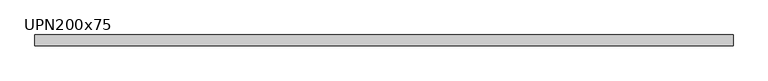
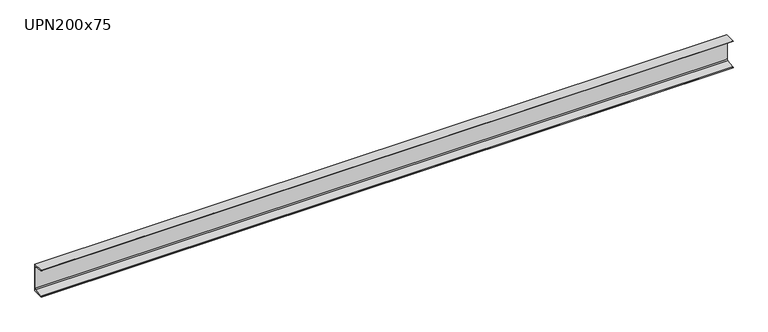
"""IFC4 building model written with IfcOpenShell, lengths in millimetres: beam geometry, M_MC Shapes : UPN200x75."""

import ifcopenshell
import ifcopenshell.guid

model = None  # the IFC model being written
_history = None  # IfcOwnerHistory: only IFC2X3 demands one
_inside = {}  # id of a spatial element -> (the spatial element, [elements in it])
_under = {}  # id of a project, library or spatial element -> (it, [spatial elements below it])
_declared = {}  # id of a project -> (the project, [libraries it declares])
_typed = {}  # id of a type object -> (the type object, [elements of that type])
_made_of = {}  # id of a material, layer set ... -> (it, [elements and type objects made of it])


def new_model(schema):
    """Start an empty IFC model of exactly this schema.

    Asked for "IFC4X3", IfcOpenShell would pick the latest addendum, in which some entities
    have other attributes; the version numbers below select the first issue.
    IFC2X3 requires an IfcOwnerHistory on every rooted entity: one is made here for all.
    """
    global model, _history
    if schema == "IFC4X3":
        model = ifcopenshell.file(schema_version=(4, 3, 0, 0))
    else:
        model = ifcopenshell.file(schema=schema)
    _inside.clear()
    _under.clear()
    _declared.clear()
    _typed.clear()
    _made_of.clear()
    _history = None
    if model.schema == "IFC2X3":
        org = make("IfcOrganization", Name="unknown")
        user = make(
            "IfcPersonAndOrganization",
            ThePerson=make("IfcPerson", FamilyName="unknown"),
            TheOrganization=org,
        )
        app = make(
            "IfcApplication",
            ApplicationDeveloper=org,
            Version="unknown",
            ApplicationFullName="unknown",
            ApplicationIdentifier="unknown",
        )
        _history = make(
            "IfcOwnerHistory",
            OwningUser=user,
            OwningApplication=app,
            ChangeAction="ADDED",
            CreationDate=0,
        )
    return model


def make(cls, **values):
    """One entity of the class cls with the attributes given. An attribute that is None is left unset."""
    return model.create_entity(
        cls, **{name: value for name, value in values.items() if value is not None}
    )


def rooted(cls, **values):
    """An entity with a GlobalId (a new one), such as an element, a storey or a relation."""
    return make(cls, GlobalId=ifcopenshell.guid.new(), OwnerHistory=_history, **values)


def si_unit(unit_type, name, prefix=None):
    """IfcSIUnit, for example si_unit("LENGTHUNIT", "METRE", prefix="MILLI")."""
    return make("IfcSIUnit", UnitType=unit_type, Prefix=prefix, Name=name)


def assignment(units):
    """IfcUnitAssignment: the units of a project."""
    return None if units is None else make("IfcUnitAssignment", Units=units)


def point(xyz):
    """IfcCartesianPoint."""
    return None if xyz is None else make("IfcCartesianPoint", Coordinates=xyz)


def direction(xyz):
    """IfcDirection."""
    return None if xyz is None else make("IfcDirection", DirectionRatios=xyz)


def frame(location, z_axis=None, x_axis=None):
    """IfcAxis2Placement3D, a coordinate frame: its origin and axes. An axis left out is left unset."""
    return make(
        "IfcAxis2Placement3D",
        Location=point(location),
        Axis=direction(z_axis),
        RefDirection=direction(x_axis),
    )


def frame_2d(location, x_axis=None):
    """IfcAxis2Placement2D, a coordinate frame in the plane: its origin and x axis."""
    return make(
        "IfcAxis2Placement2D", Location=point(location), RefDirection=direction(x_axis)
    )


def origin():
    """The frame at (0, 0, 0) with its axes left unset."""
    return frame((0.0, 0.0, 0.0))


def place(relative_to, where):
    """IfcLocalPlacement: puts the frame where relative to a parent placement (None: the world)."""
    return make(
        "IfcLocalPlacement", PlacementRelTo=relative_to, RelativePlacement=where
    )


def context(
    kind, dimensions, precision=None, world=None, true_north=None, identifier=None
):
    """IfcGeometricRepresentationContext, for example the 3D "Model" context."""
    return make(
        "IfcGeometricRepresentationContext",
        ContextIdentifier=identifier,
        ContextType=kind,
        CoordinateSpaceDimension=dimensions,
        Precision=precision,
        WorldCoordinateSystem=world,
        TrueNorth=true_north,
    )


def project(units=None, contexts=None):
    """IfcProject with its units and contexts."""
    return rooted(
        "IfcProject",
        Name="project",
        RepresentationContexts=contexts,
        UnitsInContext=assignment(units),
    )


def spatial(cls, under=None, at=None, **own):
    """A site, building, storey or space (cls), placed at a placement, below another one or the project."""
    s = rooted(cls, ObjectPlacement=at, **own)
    if under is not None:
        _under.setdefault(under.id(), (under, []))[1].append(s)
    return s


def polyline(points):
    """IfcPolyline through the points."""
    return make("IfcPolyline", Points=[point(p) for p in points])


def circle_curve(where, radius):
    """IfcCircle in the frame where."""
    return make("IfcCircle", Position=where, Radius=radius)


def trimmed(basis, trim1, trim2, sense, master):
    """IfcTrimmedCurve: the piece of a basis curve between two trims."""
    return make(
        "IfcTrimmedCurve",
        BasisCurve=basis,
        Trim1=trim1,
        Trim2=trim2,
        SenseAgreement=sense,
        MasterRepresentation=master,
    )


def segment(curve, same_sense, transition):
    """IfcCompositeCurveSegment."""
    return make(
        "IfcCompositeCurveSegment",
        Transition=transition,
        SameSense=same_sense,
        ParentCurve=curve,
    )


def composite_curve(segments, self_intersect=None):
    """IfcCompositeCurve: segments joined end to end."""
    return make("IfcCompositeCurve", Segments=segments, SelfIntersect=self_intersect)


def outline(outer, holes=None, kind="AREA"):
    """IfcArbitraryClosedProfileDef: a profile drawn as a closed curve; with holes, ...WithVoids."""
    if holes is None:
        return make("IfcArbitraryClosedProfileDef", ProfileType=kind, OuterCurve=outer)
    return make(
        "IfcArbitraryProfileDefWithVoids",
        ProfileType=kind,
        OuterCurve=outer,
        InnerCurves=holes,
    )


def extrude(swept, where, along, depth):
    """IfcExtrudedAreaSolid: the profile swept, set in the frame where, extruded along a direction by depth."""
    return make(
        "IfcExtrudedAreaSolid",
        SweptArea=swept,
        Position=where,
        ExtrudedDirection=direction(along),
        Depth=depth,
    )


def shape(context_of_items, identifier, shape_type, items):
    """IfcShapeRepresentation: the items that make up one representation, for example the "Body"."""
    return make(
        "IfcShapeRepresentation",
        ContextOfItems=context_of_items,
        RepresentationIdentifier=identifier,
        RepresentationType=shape_type,
        Items=items,
    )


def source(mapping_origin, context_of_items, identifier, shape_type, items):
    """IfcRepresentationMap: a shape defined once, which mapped items show again and again."""
    return make(
        "IfcRepresentationMap",
        MappingOrigin=mapping_origin,
        MappedRepresentation=shape(context_of_items, identifier, shape_type, items),
    )


def transform(
    local_origin,
    x_axis=None,
    y_axis=None,
    z_axis=None,
    scale=None,
    scale2=None,
    scale3=None,
    uniform=True,
):
    """IfcCartesianTransformationOperator3D, or its non-uniform kind. x_axis, y_axis, z_axis: its Axis1, 2, 3."""
    if uniform:
        return make(
            "IfcCartesianTransformationOperator3D",
            Axis1=direction(x_axis),
            Axis2=direction(y_axis),
            LocalOrigin=point(local_origin),
            Scale=scale,
            Axis3=direction(z_axis),
        )
    return make(
        "IfcCartesianTransformationOperator3DnonUniform",
        Axis1=direction(x_axis),
        Axis2=direction(y_axis),
        LocalOrigin=point(local_origin),
        Scale=scale,
        Axis3=direction(z_axis),
        Scale2=scale2,
        Scale3=scale3,
    )


def mapped(mapping_source, mapping_target):
    """IfcMappedItem: shows the shape of a source again, moved by a transform."""
    return make(
        "IfcMappedItem", MappingSource=mapping_source, MappingTarget=mapping_target
    )


def made_of(thing, what):
    """Note that an element or type object is made of a material, layer set ...; save() writes the relation."""
    if what is not None:
        _made_of.setdefault(what.id(), (what, []))[1].append(thing)
    return thing


def element(
    cls,
    number,
    at=None,
    inside=None,
    cuts=None,
    type_object=None,
    material=None,
    context=None,
    identifier="Body",
    shape_type=None,
    held_by="IfcProductDefinitionShape",
    body=None,
    shapes=None,
    **own,
):
    """One element of the class cls, such as IfcWall. Its Tag is "e" and its number.

    at: its placement. inside: the storey or other place that contains it. cuts: it is an
    opening in that element (IfcRelVoidsElement). A single representation is given by context,
    identifier, shape_type and body (its items); several are given by shapes. held_by: the class
    of the entity that holds the representations. save() writes the other relations.
    """
    e = rooted(cls, Tag="e%d" % number, ObjectPlacement=at, **own)
    if body is not None:
        shapes = [shape(context, identifier, shape_type, body)]
    if shapes is not None:
        e.Representation = make(held_by, Representations=shapes)
    if inside is not None:
        _inside.setdefault(inside.id(), (inside, []))[1].append(e)
    if cuts is not None:
        rooted(
            "IfcRelVoidsElement", RelatingBuildingElement=cuts, RelatedOpeningElement=e
        )
    if type_object is not None:
        _typed.setdefault(type_object.id(), (type_object, []))[1].append(e)
    return made_of(e, material)


def aggregate(whole, parts):
    """IfcRelAggregates: a whole, such as a stair, and the parts it consists of."""
    return rooted("IfcRelAggregates", RelatingObject=whole, RelatedObjects=parts)


def save(model, path):
    """Write the relations noted so far, then the file.

    IfcRelAggregates (storeys below a building ...), IfcRelContainedInSpatialStructure (elements
    in a storey), IfcRelDefinesByType, IfcRelAssociatesMaterial and IfcRelDeclares: one each for
    every whole, place, type object, material and project.
    """
    for whole, parts in _under.values():
        aggregate(whole, parts)
    for where, things in _inside.values():
        rooted(
            "IfcRelContainedInSpatialStructure",
            RelatedElements=things,
            RelatingStructure=where,
        )
    for kind, things in _typed.values():
        rooted("IfcRelDefinesByType", RelatedObjects=things, RelatingType=kind)
    for what, things in _made_of.values():
        rooted("IfcRelAssociatesMaterial", RelatedObjects=things, RelatingMaterial=what)
    for by, libraries in _declared.values():
        rooted("IfcRelDeclares", RelatingContext=by, RelatedDefinitions=libraries)
    model.write(path)


def upn200x75_6b2373fe(model_context):
    return source(origin(), model_context, "Body", "SweptSolid", [
        extrude(outline(composite_curve([segment(polyline([(10.9, 100.0), (10.9, -100.0), (-64.1, -100.0), (-64.1, -99.0253247)]), True, "CONTINUOUS"), segment(trimmed(circle_curve(frame_2d((-60.15, -99.0253247)), 3.95), [point((-64.1, -99.0253247))], [point((-60.7993773, -95.1290689))], False, "CARTESIAN"), True, "CONTINUOUS"), segment(polyline([(-60.7993773, -95.1290689), (-0.2512455, -85.0376935)]), True, "CONTINUOUS"), segment(trimmed(circle_curve(frame_2d((-1.55, -77.2451819)), 7.9), [point((-0.2512455, -85.0376935))], [point((6.35, -77.2451819))], True, "CARTESIAN"), True, "CONTINUOUS"), segment(polyline([(6.35, -77.2451819), (6.35, 77.2451819)]), True, "CONTINUOUS"), segment(trimmed(circle_curve(frame_2d((-1.55, 77.2451819)), 7.9), [point((6.35, 77.2451819))], [point((-0.2512455, 85.0376935))], True, "CARTESIAN"), True, "CONTINUOUS"), segment(polyline([(-0.2512455, 85.0376935), (-60.7993773, 95.1290689)]), True, "CONTINUOUS"), segment(trimmed(circle_curve(frame_2d((-60.15, 99.0253247)), 3.95), [point((-60.7993773, 95.1290689))], [point((-64.1, 99.0253247))], False, "CARTESIAN"), True, "CONTINUOUS"), segment(polyline([(-64.1, 99.0253247), (-64.1, 100.0), (10.9, 100.0)]), True, "CONTINUOUS")], self_intersect=False)), frame((-2433.65, 0.0, 0.0), z_axis=(1.0, 0.0, 0.0), x_axis=(0.0, 1.0, 0.0)), (0.0, 0.0, 1.0), 4867.3),
    ])


if __name__ == "__main__":
    model = new_model("IFC4")
    model_context = context("Model", 3, world=origin())
    ifc_project = project(units=[si_unit("LENGTHUNIT", "METRE", prefix="MILLI")], contexts=[model_context])
    site = spatial("IfcSite", under=ifc_project)
    building = spatial("IfcBuilding", under=site)
    placement = place(None, origin())
    upn200x75_shape = upn200x75_6b2373fe(model_context)
    element("IfcBeam", 1, ObjectType="M_MC Shapes : UPN200x75", at=placement, inside=building, context=model_context, shape_type="MappedRepresentation", body=[
        mapped(upn200x75_shape, transform((0.0, 0.0, 0.0), x_axis=(1.0, 0.0, 0.0), y_axis=(0.0, 1.0, 0.0), z_axis=(0.0, 0.0, 1.0))),
    ])
    save(model, "model.ifc")
